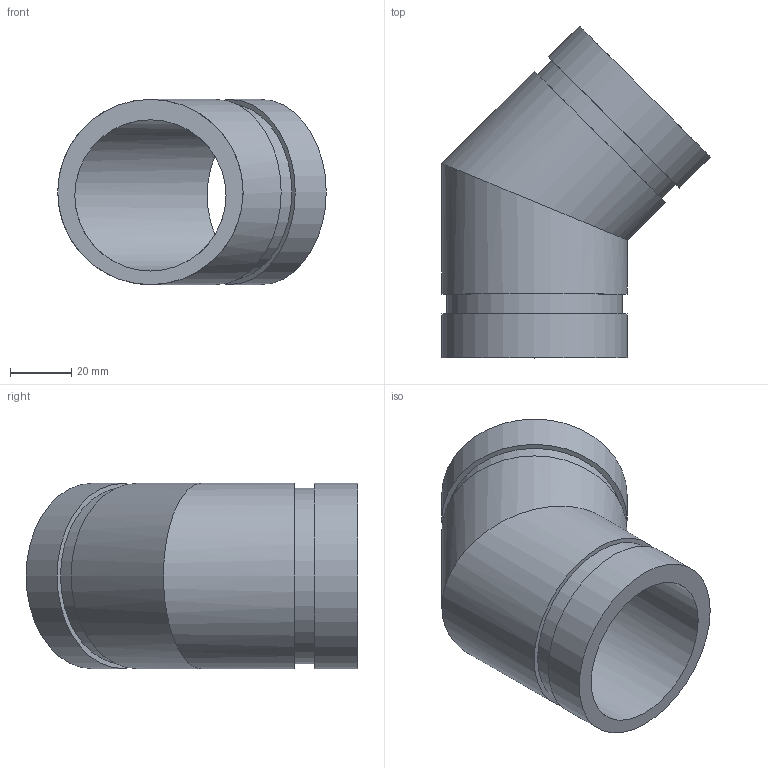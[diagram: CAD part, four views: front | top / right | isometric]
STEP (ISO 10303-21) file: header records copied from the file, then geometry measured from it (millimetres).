
FILE_DESCRIPTION(/* description */ ('VIC 45 DEG. EXTRA HEAVY ELBOW No 63-ES','CAx-IF Rec.Pracs.---Representation and Presentation of Product Manufacturing Information (PMI)---4.0---2014-10-13'),/* implementation_level */ '2;1');
FILE_NAME(/* name */ 'C:\Users\kkamble\AppData\Roaming\Autodesk\ApplicationPlugins\Back Up\Victaulic_IPS-EndSeal_Elbow 45 Deg LR_No 63-ES (ESG)\Victaulic_IPS-EndSeal_Elbow 45 Deg LR_No 63-ES (ESG)_2 (50).stp',/* time_stamp */ '2020-08-04T18:51:24+05:00',/* author */ ('cgray'),/* organization */ ('Victaulic'),/* preprocessor_version */ 'ST-DEVELOPER v17.2',/* originating_system */ 'Autodesk Inventor 2019',/* authorisation */ '');
FILE_SCHEMA (('AP242_MANAGED_MODEL_BASED_3D_ENGINEERING_MIM_LF { 1 0 10303 442 1 1 4 }'));
Length unit declared in the file: inch
Products named in the file (1): 63-ES-02.0
Bounding box: 87.41 x 108.05 x 60.33 mm (x, y, z)
Volume: 93037 mm3; surface area: 37923.7 mm2
Topology: 1 solids, 1 shells, 14 faces, 30 edges, 22 vertices
Faces by surface type: cylinder 8, plane 6
Full cylindrical faces by diameter (mm): 49.251 x2, 57.15 x2, 60.325 x4
Entity records: 554 total; most frequent: DIRECTION 108, CARTESIAN_POINT 84, ORIENTED_EDGE 60, AXIS2_PLACEMENT_3D 50, EDGE_CURVE 30, VERTEX_POINT 22, EDGE_LOOP 20, CIRCLE 16
